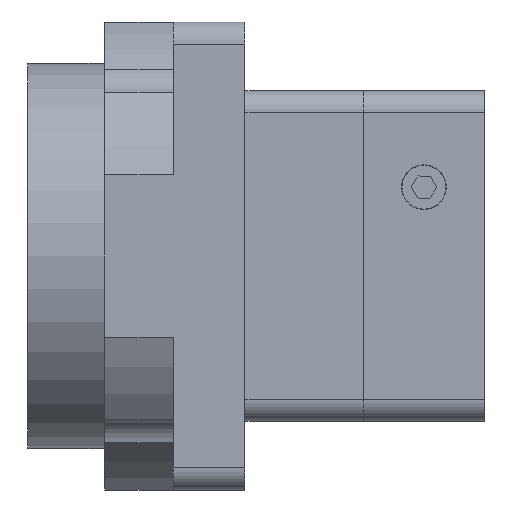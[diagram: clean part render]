
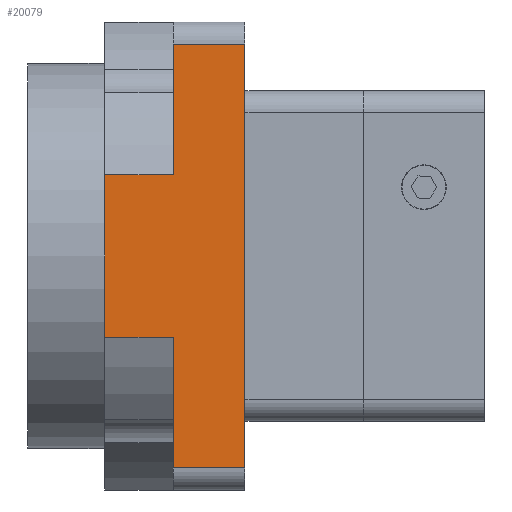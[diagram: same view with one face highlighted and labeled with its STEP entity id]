
A CAD part, left-side view. The second image highlights one B-rep face of the part: STEP entity #20079.
In plain terms, the highlighted planar face has unit normal (-1, 0, 0).
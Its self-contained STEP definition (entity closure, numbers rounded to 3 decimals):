
#4565 = PLANE('',#4566);
#4566 = AXIS2_PLACEMENT_3D('',#4567,#4568,#4569);
#4567 = CARTESIAN_POINT('',(25.528,-13.286,148.));
#4568 = DIRECTION('',(0.,-1.,0.));
#4569 = DIRECTION('',(0.,-0.,-1.));
#5090 = VERTEX_POINT('',#5091);
#5091 = CARTESIAN_POINT('',(-63.472,-13.286,156.5));
#5106 = CYLINDRICAL_SURFACE('',#5107,4.);
#5107 = AXIS2_PLACEMENT_3D('',#5108,#5109,#5110);
#5108 = CARTESIAN_POINT('',(-59.472,-0.286,156.5));
#5109 = DIRECTION('',(-0.,-1.,-0.));
#5110 = DIRECTION('',(0.,0.,-1.));
#5118 = EDGE_CURVE('',#5090,#5119,#5121,.T.);
#5119 = VERTEX_POINT('',#5120);
#5120 = CARTESIAN_POINT('',(-63.472,-13.286,79.5));
#5121 = SURFACE_CURVE('',#5122,(#5126,#5133),.PCURVE_S1.);
#5122 = LINE('',#5123,#5124);
#5123 = CARTESIAN_POINT('',(-63.472,-13.286,148.));
#5124 = VECTOR('',#5125,1.);
#5125 = DIRECTION('',(0.,-0.,-1.));
#5126 = PCURVE('',#4565,#5127);
#5127 = DEFINITIONAL_REPRESENTATION('',(#5128),#5132);
#5128 = LINE('',#5129,#5130);
#5129 = CARTESIAN_POINT('',(-0.,-89.));
#5130 = VECTOR('',#5131,1.);
#5131 = DIRECTION('',(1.,0.));
#5132 = ( GEOMETRIC_REPRESENTATION_CONTEXT(2) 
PARAMETRIC_REPRESENTATION_CONTEXT() REPRESENTATION_CONTEXT('2D SPACE',''
  ) );
#5133 = PCURVE('',#5134,#5139);
#5134 = PLANE('',#5135);
#5135 = AXIS2_PLACEMENT_3D('',#5136,#5137,#5138);
#5136 = CARTESIAN_POINT('',(-63.472,-0.286,79.5));
#5137 = DIRECTION('',(1.,0.,0.));
#5138 = DIRECTION('',(0.,0.,-1.));
#5139 = DEFINITIONAL_REPRESENTATION('',(#5140),#5144);
#5140 = LINE('',#5141,#5142);
#5141 = CARTESIAN_POINT('',(-68.5,-13.));
#5142 = VECTOR('',#5143,1.);
#5143 = DIRECTION('',(1.,-0.));
#5144 = ( GEOMETRIC_REPRESENTATION_CONTEXT(2) 
PARAMETRIC_REPRESENTATION_CONTEXT() REPRESENTATION_CONTEXT('2D SPACE',''
  ) );
#5163 = CYLINDRICAL_SURFACE('',#5164,4.);
#5164 = AXIS2_PLACEMENT_3D('',#5165,#5166,#5167);
#5165 = CARTESIAN_POINT('',(-59.472,-0.286,79.5));
#5166 = DIRECTION('',(-0.,-1.,-0.));
#5167 = DIRECTION('',(0.,0.,-1.));
#19939 = PLANE('',#19940);
#19940 = AXIS2_PLACEMENT_3D('',#19941,#19942,#19943);
#19941 = CARTESIAN_POINT('',(-20.972,12.214,118.));
#19942 = DIRECTION('',(0.,1.,0.));
#19943 = DIRECTION('',(0.,-0.,1.));
#19995 = PLANE('',#19996);
#19996 = AXIS2_PLACEMENT_3D('',#19997,#19998,#19999);
#19997 = CARTESIAN_POINT('',(25.528,-0.286,152.));
#19998 = DIRECTION('',(0.,-1.,0.));
#19999 = DIRECTION('',(0.,-0.,-1.));
#20036 = VERTEX_POINT('',#20037);
#20037 = CARTESIAN_POINT('',(-63.472,-0.286,156.5));
#20059 = EDGE_CURVE('',#20036,#5090,#20060,.T.);
#20060 = SURFACE_CURVE('',#20061,(#20065,#20072),.PCURVE_S1.);
#20061 = LINE('',#20062,#20063);
#20062 = CARTESIAN_POINT('',(-63.472,-0.286,156.5));
#20063 = VECTOR('',#20064,1.);
#20064 = DIRECTION('',(-0.,-1.,-0.));
#20065 = PCURVE('',#5106,#20066);
#20066 = DEFINITIONAL_REPRESENTATION('',(#20067),#20071);
#20067 = LINE('',#20068,#20069);
#20068 = CARTESIAN_POINT('',(4.712,0.));
#20069 = VECTOR('',#20070,1.);
#20070 = DIRECTION('',(0.,1.));
#20071 = ( GEOMETRIC_REPRESENTATION_CONTEXT(2) 
PARAMETRIC_REPRESENTATION_CONTEXT() REPRESENTATION_CONTEXT('2D SPACE',''
  ) );
#20072 = PCURVE('',#5134,#20073);
#20073 = DEFINITIONAL_REPRESENTATION('',(#20074),#20078);
#20074 = LINE('',#20075,#20076);
#20075 = CARTESIAN_POINT('',(-77.,0.));
#20076 = VECTOR('',#20077,1.);
#20077 = DIRECTION('',(0.,-1.));
#20078 = ( GEOMETRIC_REPRESENTATION_CONTEXT(2) 
PARAMETRIC_REPRESENTATION_CONTEXT() REPRESENTATION_CONTEXT('2D SPACE',''
  ) );
#20079 = ADVANCED_FACE('',(#20080),#5134,.F.);
#20080 = FACE_BOUND('',#20081,.T.);
#20081 = EDGE_LOOP('',(#20082,#20105,#20133,#20156,#20184,#20212,#20233,
    #20234));
#20082 = ORIENTED_EDGE('',*,*,#20083,.F.);
#20083 = EDGE_CURVE('',#20084,#20036,#20086,.T.);
#20084 = VERTEX_POINT('',#20085);
#20085 = CARTESIAN_POINT('',(-63.472,-0.286,
    132.79));
#20086 = SURFACE_CURVE('',#20087,(#20091,#20098),.PCURVE_S1.);
#20087 = LINE('',#20088,#20089);
#20088 = CARTESIAN_POINT('',(-63.472,-0.286,79.5));
#20089 = VECTOR('',#20090,1.);
#20090 = DIRECTION('',(0.,-0.,1.));
#20091 = PCURVE('',#5134,#20092);
#20092 = DEFINITIONAL_REPRESENTATION('',(#20093),#20097);
#20093 = LINE('',#20094,#20095);
#20094 = CARTESIAN_POINT('',(0.,0.));
#20095 = VECTOR('',#20096,1.);
#20096 = DIRECTION('',(-1.,0.));
#20097 = ( GEOMETRIC_REPRESENTATION_CONTEXT(2) 
PARAMETRIC_REPRESENTATION_CONTEXT() REPRESENTATION_CONTEXT('2D SPACE',''
  ) );
#20098 = PCURVE('',#19995,#20099);
#20099 = DEFINITIONAL_REPRESENTATION('',(#20100),#20104);
#20100 = LINE('',#20101,#20102);
#20101 = CARTESIAN_POINT('',(72.5,-89.));
#20102 = VECTOR('',#20103,1.);
#20103 = DIRECTION('',(-1.,0.));
#20104 = ( GEOMETRIC_REPRESENTATION_CONTEXT(2) 
PARAMETRIC_REPRESENTATION_CONTEXT() REPRESENTATION_CONTEXT('2D SPACE',''
  ) );
#20105 = ORIENTED_EDGE('',*,*,#20106,.F.);
#20106 = EDGE_CURVE('',#20107,#20084,#20109,.T.);
#20107 = VERTEX_POINT('',#20108);
#20108 = CARTESIAN_POINT('',(-63.472,12.214,
    132.79));
#20109 = SURFACE_CURVE('',#20110,(#20114,#20121),.PCURVE_S1.);
#20110 = LINE('',#20111,#20112);
#20111 = CARTESIAN_POINT('',(-63.472,-0.286,
    132.79));
#20112 = VECTOR('',#20113,1.);
#20113 = DIRECTION('',(-0.,-1.,-0.));
#20114 = PCURVE('',#5134,#20115);
#20115 = DEFINITIONAL_REPRESENTATION('',(#20116),#20120);
#20116 = LINE('',#20117,#20118);
#20117 = CARTESIAN_POINT('',(-53.29,0.));
#20118 = VECTOR('',#20119,1.);
#20119 = DIRECTION('',(0.,-1.));
#20120 = ( GEOMETRIC_REPRESENTATION_CONTEXT(2) 
PARAMETRIC_REPRESENTATION_CONTEXT() REPRESENTATION_CONTEXT('2D SPACE',''
  ) );
#20121 = PCURVE('',#20122,#20127);
#20122 = CYLINDRICAL_SURFACE('',#20123,45.);
#20123 = AXIS2_PLACEMENT_3D('',#20124,#20125,#20126);
#20124 = CARTESIAN_POINT('',(-20.972,12.214,118.));
#20125 = DIRECTION('',(-0.,-1.,-0.));
#20126 = DIRECTION('',(0.,0.,-1.));
#20127 = DEFINITIONAL_REPRESENTATION('',(#20128),#20132);
#20128 = LINE('',#20129,#20130);
#20129 = CARTESIAN_POINT('',(4.377,12.5));
#20130 = VECTOR('',#20131,1.);
#20131 = DIRECTION('',(0.,1.));
#20132 = ( GEOMETRIC_REPRESENTATION_CONTEXT(2) 
PARAMETRIC_REPRESENTATION_CONTEXT() REPRESENTATION_CONTEXT('2D SPACE',''
  ) );
#20133 = ORIENTED_EDGE('',*,*,#20134,.F.);
#20134 = EDGE_CURVE('',#20135,#20107,#20137,.T.);
#20135 = VERTEX_POINT('',#20136);
#20136 = CARTESIAN_POINT('',(-63.472,12.214,
    103.21));
#20137 = SURFACE_CURVE('',#20138,(#20142,#20149),.PCURVE_S1.);
#20138 = LINE('',#20139,#20140);
#20139 = CARTESIAN_POINT('',(-63.472,12.214,79.5));
#20140 = VECTOR('',#20141,1.);
#20141 = DIRECTION('',(0.,-0.,1.));
#20142 = PCURVE('',#5134,#20143);
#20143 = DEFINITIONAL_REPRESENTATION('',(#20144),#20148);
#20144 = LINE('',#20145,#20146);
#20145 = CARTESIAN_POINT('',(0.,12.5));
#20146 = VECTOR('',#20147,1.);
#20147 = DIRECTION('',(-1.,0.));
#20148 = ( GEOMETRIC_REPRESENTATION_CONTEXT(2) 
PARAMETRIC_REPRESENTATION_CONTEXT() REPRESENTATION_CONTEXT('2D SPACE',''
  ) );
#20149 = PCURVE('',#19939,#20150);
#20150 = DEFINITIONAL_REPRESENTATION('',(#20151),#20155);
#20151 = LINE('',#20152,#20153);
#20152 = CARTESIAN_POINT('',(-38.5,-42.5));
#20153 = VECTOR('',#20154,1.);
#20154 = DIRECTION('',(1.,0.));
#20155 = ( GEOMETRIC_REPRESENTATION_CONTEXT(2) 
PARAMETRIC_REPRESENTATION_CONTEXT() REPRESENTATION_CONTEXT('2D SPACE',''
  ) );
#20156 = ORIENTED_EDGE('',*,*,#20157,.F.);
#20157 = EDGE_CURVE('',#20158,#20135,#20160,.T.);
#20158 = VERTEX_POINT('',#20159);
#20159 = CARTESIAN_POINT('',(-63.472,-0.286,
    103.21));
#20160 = SURFACE_CURVE('',#20161,(#20165,#20172),.PCURVE_S1.);
#20161 = LINE('',#20162,#20163);
#20162 = CARTESIAN_POINT('',(-63.472,-0.286,
    103.21));
#20163 = VECTOR('',#20164,1.);
#20164 = DIRECTION('',(0.,1.,0.));
#20165 = PCURVE('',#5134,#20166);
#20166 = DEFINITIONAL_REPRESENTATION('',(#20167),#20171);
#20167 = LINE('',#20168,#20169);
#20168 = CARTESIAN_POINT('',(-23.71,0.));
#20169 = VECTOR('',#20170,1.);
#20170 = DIRECTION('',(0.,1.));
#20171 = ( GEOMETRIC_REPRESENTATION_CONTEXT(2) 
PARAMETRIC_REPRESENTATION_CONTEXT() REPRESENTATION_CONTEXT('2D SPACE',''
  ) );
#20172 = PCURVE('',#20173,#20178);
#20173 = CYLINDRICAL_SURFACE('',#20174,45.);
#20174 = AXIS2_PLACEMENT_3D('',#20175,#20176,#20177);
#20175 = CARTESIAN_POINT('',(-20.972,12.214,118.));
#20176 = DIRECTION('',(-0.,-1.,-0.));
#20177 = DIRECTION('',(0.,0.,-1.));
#20178 = DEFINITIONAL_REPRESENTATION('',(#20179),#20183);
#20179 = LINE('',#20180,#20181);
#20180 = CARTESIAN_POINT('',(5.047,12.5));
#20181 = VECTOR('',#20182,1.);
#20182 = DIRECTION('',(0.,-1.));
#20183 = ( GEOMETRIC_REPRESENTATION_CONTEXT(2) 
PARAMETRIC_REPRESENTATION_CONTEXT() REPRESENTATION_CONTEXT('2D SPACE',''
  ) );
#20184 = ORIENTED_EDGE('',*,*,#20185,.F.);
#20185 = EDGE_CURVE('',#20186,#20158,#20188,.T.);
#20186 = VERTEX_POINT('',#20187);
#20187 = CARTESIAN_POINT('',(-63.472,-0.286,79.5));
#20188 = SURFACE_CURVE('',#20189,(#20193,#20200),.PCURVE_S1.);
#20189 = LINE('',#20190,#20191);
#20190 = CARTESIAN_POINT('',(-63.472,-0.286,79.5));
#20191 = VECTOR('',#20192,1.);
#20192 = DIRECTION('',(0.,-0.,1.));
#20193 = PCURVE('',#5134,#20194);
#20194 = DEFINITIONAL_REPRESENTATION('',(#20195),#20199);
#20195 = LINE('',#20196,#20197);
#20196 = CARTESIAN_POINT('',(0.,0.));
#20197 = VECTOR('',#20198,1.);
#20198 = DIRECTION('',(-1.,0.));
#20199 = ( GEOMETRIC_REPRESENTATION_CONTEXT(2) 
PARAMETRIC_REPRESENTATION_CONTEXT() REPRESENTATION_CONTEXT('2D SPACE',''
  ) );
#20200 = PCURVE('',#20201,#20206);
#20201 = PLANE('',#20202);
#20202 = AXIS2_PLACEMENT_3D('',#20203,#20204,#20205);
#20203 = CARTESIAN_POINT('',(25.528,-0.286,152.));
#20204 = DIRECTION('',(0.,-1.,0.));
#20205 = DIRECTION('',(0.,-0.,-1.));
#20206 = DEFINITIONAL_REPRESENTATION('',(#20207),#20211);
#20207 = LINE('',#20208,#20209);
#20208 = CARTESIAN_POINT('',(72.5,-89.));
#20209 = VECTOR('',#20210,1.);
#20210 = DIRECTION('',(-1.,0.));
#20211 = ( GEOMETRIC_REPRESENTATION_CONTEXT(2) 
PARAMETRIC_REPRESENTATION_CONTEXT() REPRESENTATION_CONTEXT('2D SPACE',''
  ) );
#20212 = ORIENTED_EDGE('',*,*,#20213,.F.);
#20213 = EDGE_CURVE('',#5119,#20186,#20214,.T.);
#20214 = SURFACE_CURVE('',#20215,(#20219,#20226),.PCURVE_S1.);
#20215 = LINE('',#20216,#20217);
#20216 = CARTESIAN_POINT('',(-63.472,-0.286,79.5));
#20217 = VECTOR('',#20218,1.);
#20218 = DIRECTION('',(0.,1.,0.));
#20219 = PCURVE('',#5134,#20220);
#20220 = DEFINITIONAL_REPRESENTATION('',(#20221),#20225);
#20221 = LINE('',#20222,#20223);
#20222 = CARTESIAN_POINT('',(0.,0.));
#20223 = VECTOR('',#20224,1.);
#20224 = DIRECTION('',(0.,1.));
#20225 = ( GEOMETRIC_REPRESENTATION_CONTEXT(2) 
PARAMETRIC_REPRESENTATION_CONTEXT() REPRESENTATION_CONTEXT('2D SPACE',''
  ) );
#20226 = PCURVE('',#5163,#20227);
#20227 = DEFINITIONAL_REPRESENTATION('',(#20228),#20232);
#20228 = LINE('',#20229,#20230);
#20229 = CARTESIAN_POINT('',(4.712,0.));
#20230 = VECTOR('',#20231,1.);
#20231 = DIRECTION('',(0.,-1.));
#20232 = ( GEOMETRIC_REPRESENTATION_CONTEXT(2) 
PARAMETRIC_REPRESENTATION_CONTEXT() REPRESENTATION_CONTEXT('2D SPACE',''
  ) );
#20233 = ORIENTED_EDGE('',*,*,#5118,.F.);
#20234 = ORIENTED_EDGE('',*,*,#20059,.F.);
